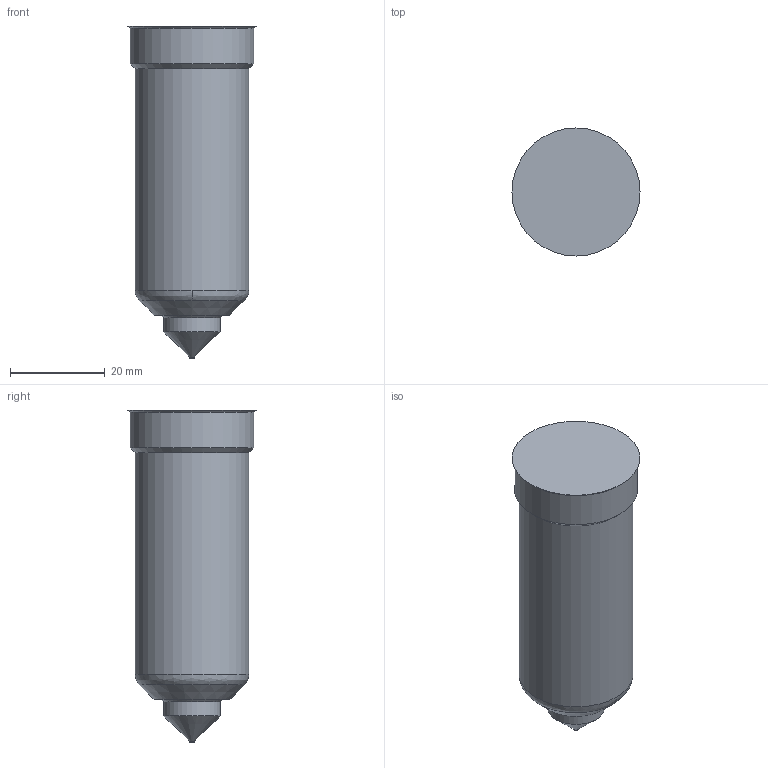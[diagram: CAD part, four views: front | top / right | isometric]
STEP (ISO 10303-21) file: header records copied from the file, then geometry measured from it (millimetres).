
FILE_DESCRIPTION(('STEP AP214'),'1');
FILE_NAME('SEDE FLM3-A.stp','2018-06-12T09:01:33',(' '),(' '),'Spatial InterOp 3D',' ',' ');
FILE_SCHEMA(('AUTOMOTIVE_DESIGN { 1 0 10303 214 1 1 1 1 }'));
Length unit declared in the file: millimetre
Products named in the file (1): 1
Bounding box: 27 x 27 x 70 mm (x, y, z)
Volume: 28341.3 mm3; surface area: 5685.5 mm2
Topology: 1 solids, 1 shells, 14 faces, 28 edges, 17 vertices
Faces by surface type: cone 5, cylinder 4, plane 3, bspline 2
Full cylindrical faces by diameter (mm): 1 x1, 12 x1, 24 x1, 26 x1
Entity records: 447 total; most frequent: CARTESIAN_POINT 75, DIRECTION 58, ORIENTED_EDGE 32, AXIS2_PLACEMENT_3D 29, EDGE_LOOP 24, FACE_OUTER_BOUND 18, EDGE_CURVE 16, CIRCLE 16
